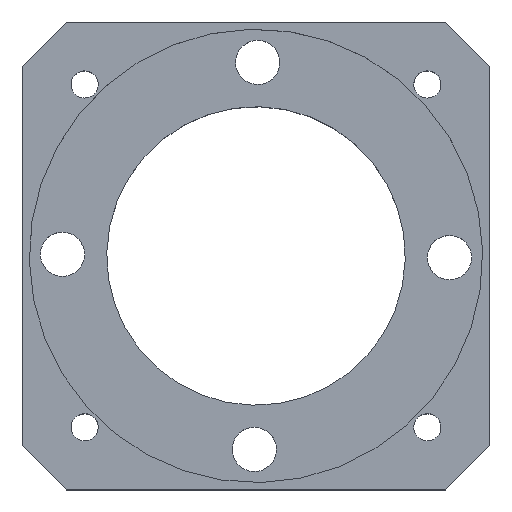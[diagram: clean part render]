
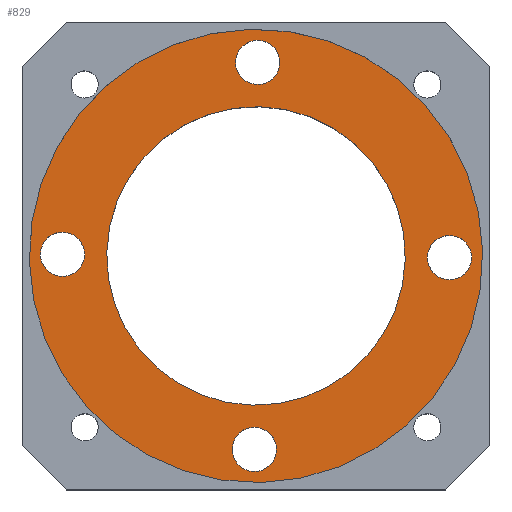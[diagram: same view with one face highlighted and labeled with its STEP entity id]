
A CAD part, top view. The second image highlights one B-rep face of the part: STEP entity #829.
In plain terms, the highlighted planar face has unit normal (0, 0, 1).
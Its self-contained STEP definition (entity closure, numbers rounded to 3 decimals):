
#251=CARTESIAN_POINT('Axis2P3D Location',(0.,-7.038,19.509)) ;
#255=CARTESIAN_POINT('Vertex',(-11.847,-13.51,19.509)) ;
#257=CARTESIAN_POINT('Vertex',(11.847,-0.566,19.509)) ;
#286=CARTESIAN_POINT('Axis2P3D Location',(0.,-7.038,19.509)) ;
#580=CARTESIAN_POINT('Vertex',(1.605,-25.496,19.509)) ;
#583=CARTESIAN_POINT('Axis2P3D Location',(-0.15,-24.537,19.509)) ;
#587=CARTESIAN_POINT('Vertex',(-1.905,-23.579,19.509)) ;
#602=CARTESIAN_POINT('Axis2P3D Location',(-0.15,-24.537,19.509)) ;
#623=CARTESIAN_POINT('Vertex',(18.458,-5.433,19.509)) ;
#626=CARTESIAN_POINT('Axis2P3D Location',(17.499,-7.188,19.509)) ;
#630=CARTESIAN_POINT('Vertex',(16.541,-8.943,19.509)) ;
#645=CARTESIAN_POINT('Axis2P3D Location',(17.499,-7.188,19.509)) ;
#666=CARTESIAN_POINT('Vertex',(-1.605,11.42,19.509)) ;
#669=CARTESIAN_POINT('Axis2P3D Location',(0.15,10.461,19.509)) ;
#673=CARTESIAN_POINT('Vertex',(1.905,9.502,19.509)) ;
#688=CARTESIAN_POINT('Axis2P3D Location',(0.15,10.461,19.509)) ;
#709=CARTESIAN_POINT('Vertex',(-18.458,-8.643,19.509)) ;
#712=CARTESIAN_POINT('Axis2P3D Location',(-17.499,-6.888,19.509)) ;
#716=CARTESIAN_POINT('Vertex',(-16.541,-5.133,19.509)) ;
#731=CARTESIAN_POINT('Axis2P3D Location',(-17.499,-6.888,19.509)) ;
#761=CARTESIAN_POINT('Vertex',(17.99,-16.866,19.509)) ;
#764=CARTESIAN_POINT('Axis2P3D Location',(0.,-7.038,19.509)) ;
#768=CARTESIAN_POINT('Vertex',(-17.99,2.79,19.509)) ;
#788=CARTESIAN_POINT('Axis2P3D Location',(0.,-7.038,19.509)) ;
#800=CARTESIAN_POINT('Axis2P3D Location',(0.,-7.038,19.509)) ;
#252=DIRECTION('Axis2P3D Direction',(0.,-0.,1.)) ;
#287=DIRECTION('Axis2P3D Direction',(0.,-0.,1.)) ;
#584=DIRECTION('Axis2P3D Direction',(0.,0.,-1.)) ;
#603=DIRECTION('Axis2P3D Direction',(0.,0.,-1.)) ;
#627=DIRECTION('Axis2P3D Direction',(0.,0.,-1.)) ;
#646=DIRECTION('Axis2P3D Direction',(0.,0.,-1.)) ;
#670=DIRECTION('Axis2P3D Direction',(0.,0.,-1.)) ;
#689=DIRECTION('Axis2P3D Direction',(0.,0.,-1.)) ;
#713=DIRECTION('Axis2P3D Direction',(-0.,0.,-1.)) ;
#732=DIRECTION('Axis2P3D Direction',(-0.,0.,-1.)) ;
#765=DIRECTION('Axis2P3D Direction',(0.,0.,-1.)) ;
#789=DIRECTION('Axis2P3D Direction',(0.,0.,-1.)) ;
#801=DIRECTION('Axis2P3D Direction',(0.,0.,-1.)) ;
#802=DIRECTION('Axis2P3D XDirection',(1.,0.,0.)) ;
#253=AXIS2_PLACEMENT_3D('Circle Axis2P3D',#251,#252,$) ;
#288=AXIS2_PLACEMENT_3D('Circle Axis2P3D',#286,#287,$) ;
#585=AXIS2_PLACEMENT_3D('Circle Axis2P3D',#583,#584,$) ;
#604=AXIS2_PLACEMENT_3D('Circle Axis2P3D',#602,#603,$) ;
#628=AXIS2_PLACEMENT_3D('Circle Axis2P3D',#626,#627,$) ;
#647=AXIS2_PLACEMENT_3D('Circle Axis2P3D',#645,#646,$) ;
#671=AXIS2_PLACEMENT_3D('Circle Axis2P3D',#669,#670,$) ;
#690=AXIS2_PLACEMENT_3D('Circle Axis2P3D',#688,#689,$) ;
#714=AXIS2_PLACEMENT_3D('Circle Axis2P3D',#712,#713,$) ;
#733=AXIS2_PLACEMENT_3D('Circle Axis2P3D',#731,#732,$) ;
#766=AXIS2_PLACEMENT_3D('Circle Axis2P3D',#764,#765,$) ;
#790=AXIS2_PLACEMENT_3D('Circle Axis2P3D',#788,#789,$) ;
#803=AXIS2_PLACEMENT_3D('Plane Axis2P3D',#800,#801,#802) ;
#806=ORIENTED_EDGE('',*,*,#792,.F.) ;
#807=ORIENTED_EDGE('',*,*,#770,.F.) ;
#810=ORIENTED_EDGE('',*,*,#606,.T.) ;
#811=ORIENTED_EDGE('',*,*,#589,.T.) ;
#814=ORIENTED_EDGE('',*,*,#290,.T.) ;
#815=ORIENTED_EDGE('',*,*,#259,.T.) ;
#818=ORIENTED_EDGE('',*,*,#735,.T.) ;
#819=ORIENTED_EDGE('',*,*,#718,.T.) ;
#822=ORIENTED_EDGE('',*,*,#692,.T.) ;
#823=ORIENTED_EDGE('',*,*,#675,.T.) ;
#826=ORIENTED_EDGE('',*,*,#649,.T.) ;
#827=ORIENTED_EDGE('',*,*,#632,.T.) ;
#812=FACE_BOUND('',#809,.T.) ;
#816=FACE_BOUND('',#813,.T.) ;
#820=FACE_BOUND('',#817,.T.) ;
#824=FACE_BOUND('',#821,.T.) ;
#828=FACE_BOUND('',#825,.T.) ;
#829=ADVANCED_FACE('Corps principal',(#808,#812,#816,#820,#824,#828),#804,.F.) ;
#254=CIRCLE('generated circle',#253,13.5) ;
#289=CIRCLE('generated circle',#288,13.5) ;
#586=CIRCLE('generated circle',#585,2.) ;
#605=CIRCLE('generated circle',#604,2.) ;
#629=CIRCLE('generated circle',#628,2.) ;
#648=CIRCLE('generated circle',#647,2.) ;
#672=CIRCLE('generated circle',#671,2.) ;
#691=CIRCLE('generated circle',#690,2.) ;
#715=CIRCLE('generated circle',#714,2.) ;
#734=CIRCLE('generated circle',#733,2.) ;
#767=CIRCLE('generated circle',#766,20.5) ;
#791=CIRCLE('generated circle',#790,20.5) ;
#259=EDGE_CURVE('',#256,#258,#254,.F.) ;
#290=EDGE_CURVE('',#258,#256,#289,.F.) ;
#589=EDGE_CURVE('',#588,#581,#586,.T.) ;
#606=EDGE_CURVE('',#581,#588,#605,.T.) ;
#632=EDGE_CURVE('',#631,#624,#629,.T.) ;
#649=EDGE_CURVE('',#624,#631,#648,.T.) ;
#675=EDGE_CURVE('',#674,#667,#672,.T.) ;
#692=EDGE_CURVE('',#667,#674,#691,.T.) ;
#718=EDGE_CURVE('',#717,#710,#715,.T.) ;
#735=EDGE_CURVE('',#710,#717,#734,.T.) ;
#770=EDGE_CURVE('',#762,#769,#767,.T.) ;
#792=EDGE_CURVE('',#769,#762,#791,.T.) ;
#805=EDGE_LOOP('',(#806,#807)) ;
#809=EDGE_LOOP('',(#810,#811)) ;
#813=EDGE_LOOP('',(#814,#815)) ;
#817=EDGE_LOOP('',(#818,#819)) ;
#821=EDGE_LOOP('',(#822,#823)) ;
#825=EDGE_LOOP('',(#826,#827)) ;
#808=FACE_OUTER_BOUND('',#805,.T.) ;
#804=PLANE('Plane',#803) ;
#256=VERTEX_POINT('',#255) ;
#258=VERTEX_POINT('',#257) ;
#581=VERTEX_POINT('',#580) ;
#588=VERTEX_POINT('',#587) ;
#624=VERTEX_POINT('',#623) ;
#631=VERTEX_POINT('',#630) ;
#667=VERTEX_POINT('',#666) ;
#674=VERTEX_POINT('',#673) ;
#710=VERTEX_POINT('',#709) ;
#717=VERTEX_POINT('',#716) ;
#762=VERTEX_POINT('',#761) ;
#769=VERTEX_POINT('',#768) ;
